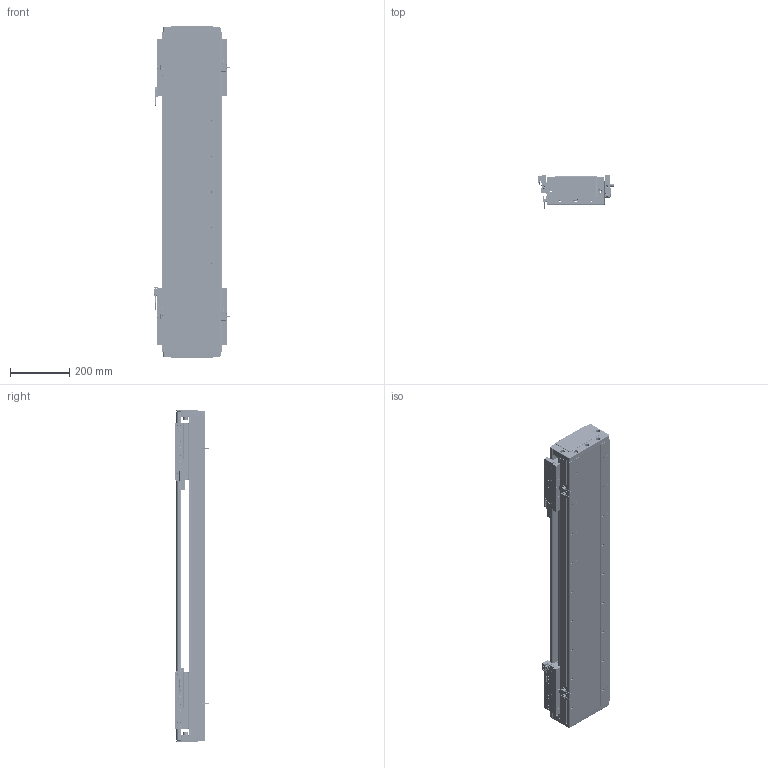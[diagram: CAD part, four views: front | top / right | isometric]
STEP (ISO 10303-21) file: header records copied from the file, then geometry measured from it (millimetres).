
FILE_DESCRIPTION (( 'STEP AP203' ), '1' );
FILE_NAME ('DA-C195-2-C2-T620-C010-0.2 眻盄萇儂.STEP', '2025-08-14T01:57:04', ( '' ), ( '' ), 'SwSTEP 2.0', 'SolidWorks 2019', '' );
FILE_SCHEMA (( 'CONFIG_CONTROL_DESIGN' ));
Length unit declared in the file: millimetre
Products named in the file (16): IU-CU195-L 菁釱絳寢; DA95-HXJ-00 遣喳砎蝶; PM-T45ㄗ侂狟ㄘ; DA195-DG-H-00  端盖（压铸镂空版）; DKW168-HXJ-ZJ-00 笢潔滅袉砎蝶; 葩璃 DA95-GT-T-00; 66156-0001-003-00 裔啣; LMT黍杅芛; DKW-GYP-ZJ-00 笢潔嫖萇覜茼え; MS200 棠掑喜S315-T240; CU195-C2賑輸-俋楷; PM-Y65嫖萇羲壽郪璃; 66156-0001-005-00 光电感应片(默认); DA-C195-2-C2-T620-C010-0.2 眻盄萇儂; IU-CU195-L-00 菁釱(L1080); DKW-KGZ-ZJ-00 中间光电开关支架
Assembly tree (28 placements, depth 3):
  DA-C195-2-C2-T620-C010-0.2 眻盄萇儂
    IU-CU195-L 菁釱絳寢
      IU-CU195-L-00 菁釱(L1080)
      葩璃 DA95-GT-T-00  x4
    LMT黍杅芛  x2
    MS200 棠掑喜S315-T240
    PM-T45ㄗ侂狟ㄘ  x4
    66156-0001-005-00 光电感应片(默认)  x2
    DA195-DG-H-00  端盖（压铸镂空版）  x2
    DA95-HXJ-00 遣喳砎蝶  x4
    PM-Y65嫖萇羲壽郪璃
    66156-0001-003-00 裔啣
    DKW168-HXJ-ZJ-00 笢潔滅袉砎蝶
    DKW-GYP-ZJ-00 笢潔嫖萇覜茼え
    DKW-KGZ-ZJ-00 中间光电开关支架
    CU195-C2賑輸-俋楷  x2
Bounding box: 258.2 x 115.6 x 1120 mm (x, y, z)
Volume: 9163630.6 mm3; surface area: 2538529.4 mm2
Topology: 106 solids, 242 shells, 7836 faces, 19608 edges, 11907 vertices
Faces by surface type: cylinder 3162, plane 2858, cone 946, bspline 718, torus 80, sphere 72
Entity records: 153737 total; most frequent: CARTESIAN_POINT 46732, ORIENTED_EDGE 22218, DIRECTION 21322, EDGE_CURVE 11109, AXIS2_PLACEMENT_3D 7775, VERTEX_POINT 7022, LINE 5772, VECTOR 5772
